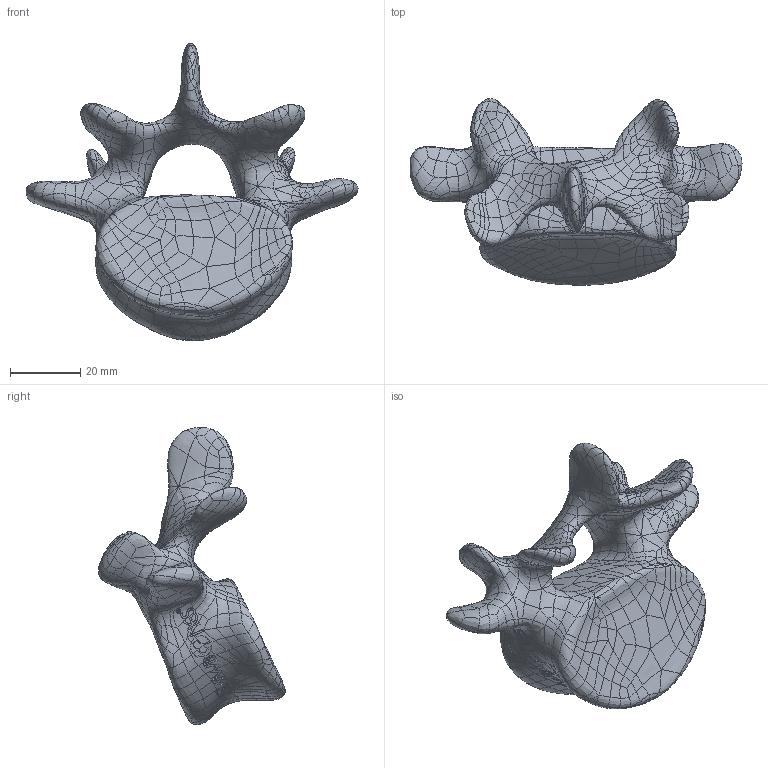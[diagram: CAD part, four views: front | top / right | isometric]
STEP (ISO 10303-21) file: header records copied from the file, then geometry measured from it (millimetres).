
FILE_DESCRIPTION (( 'STEP AP203' ), '1' );
FILE_NAME ('1375-50-5.STEP', '2026-08-04T17:36:09', ( '' ), ( '' ), 'SwSTEP 2.0', 'SolidWorks 2024', '' );
FILE_SCHEMA (( 'CONFIG_CONTROL_DESIGN' ));
Products named in the file (1): 1375-50-5
Bounding box: 94.25 x 52.92 x 84.37 mm (x, y, z)
Volume: 61036.9 mm3; surface area: 13977.6 mm2
Topology: 1 solids, 1 shells, 1675 faces, 3535 edges, 1864 vertices
Faces by surface type: bspline 1675
Entity records: 354161 total; most frequent: CARTESIAN_POINT 331365, ORIENTED_EDGE 7070, EDGE_CURVE 3535, B_SPLINE_CURVE_WITH_KNOTS 3535, VERTEX_POINT 1864, EDGE_LOOP 1679, ADVANCED_FACE 1675, FACE_OUTER_BOUND 1675
